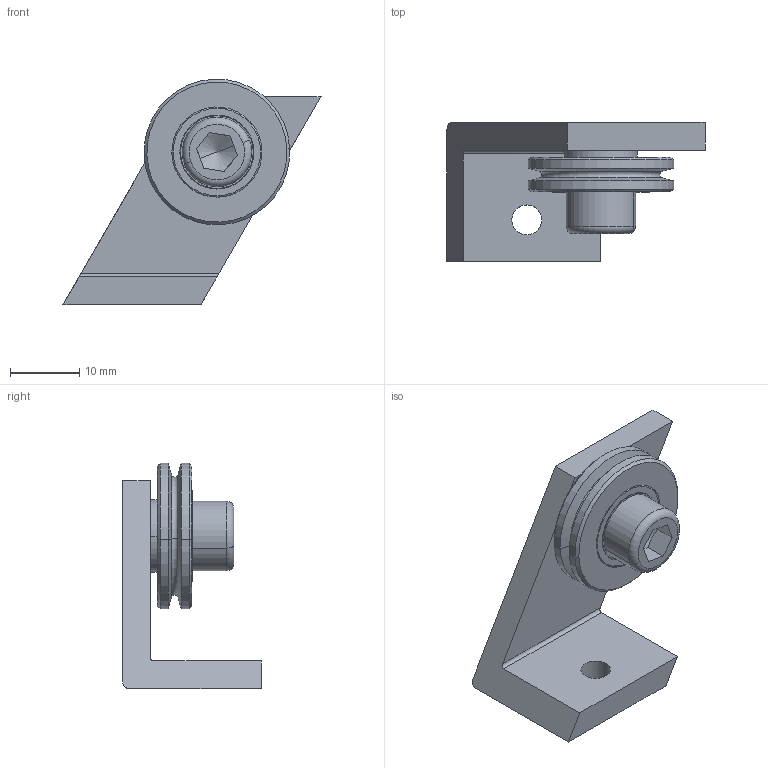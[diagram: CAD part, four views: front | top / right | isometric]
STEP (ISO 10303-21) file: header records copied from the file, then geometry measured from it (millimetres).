
FILE_DESCRIPTION((''),'2;1');
FILE_NAME('TR3','2008-09-09T',(''),(''),'PRO/ENGINEER BY PARAMETRIC TECHNOLOGY CORPORATION, 2003250','PRO/ENGINEER BY PARAMETRIC TECHNOLOGY CORPORATION, 2003250','');
FILE_SCHEMA(('CONFIG_CONTROL_DESIGN'));
Length unit declared in the file: millimetre
Products named in the file (6): DRZAK_KLADKY_TR3; KLADKA; SROUB_IMBUS_M6X10; PODLOZKA; LOZISKO_686; TR3
Assembly tree (5 placements, depth 2):
  TR3
    DRZAK_KLADKY_TR3
    KLADKA
    SROUB_IMBUS_M6X10
    PODLOZKA
    LOZISKO_686
Bounding box: 37.18 x 20 x 32.49 mm (x, y, z)
Volume: 5496.6 mm3; surface area: 5239.5 mm2
Topology: 16 solids, 16 shells, 114 faces, 259 edges, 145 vertices
Faces by surface type: cylinder 40, plane 30, torus 16, sphere 16, cone 12
Entity records: 3183 total; most frequent: DIRECTION 589, CARTESIAN_POINT 557, ORIENTED_EDGE 450, AXIS2_PLACEMENT_3D 253, EDGE_CURVE 225, VERTEX_POINT 145, EDGE_LOOP 132, CIRCLE 128
